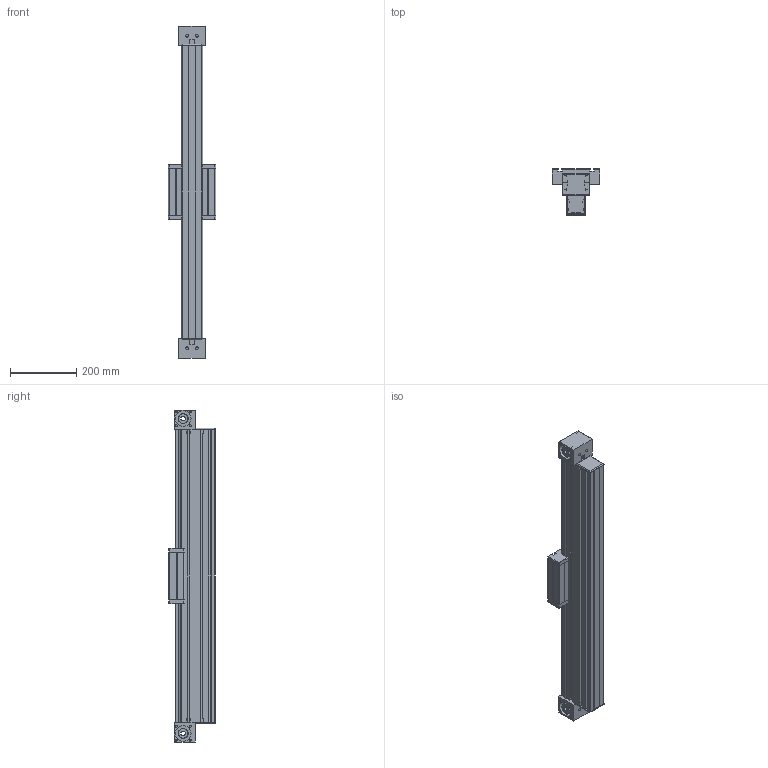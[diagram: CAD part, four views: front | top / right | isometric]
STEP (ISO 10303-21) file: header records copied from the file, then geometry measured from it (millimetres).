
FILE_DESCRIPTION (( 'STEP AP214' ), '1' );
FILE_NAME ('MLZ60 W.STEP', '2021-09-29T12:11:48', ( '' ), ( '' ), 'SwSTEP 2.0', 'SolidWorks 2020', '' );
FILE_SCHEMA (( 'AUTOMOTIVE_DESIGN' ));
Length unit declared in the file: millimetre
Products named in the file (5): timing belt reverse unit^MLZ60 W_coupling claw pos.2; MLZ60 W; carriage^MLZ60 W_carriage 0; profile^MLZ60 W_2x guide rods; timing belt reverse unit^MLZ60 W_coupling claw pos.1
Assembly tree (4 placements, depth 2):
  MLZ60 W
    profile^MLZ60 W_2x guide rods
    carriage^MLZ60 W_carriage 0
    timing belt reverse unit^MLZ60 W_coupling claw pos.1
    timing belt reverse unit^MLZ60 W_coupling claw pos.2
Bounding box: 144 x 139 x 1000 mm (x, y, z)
Volume: 7079833.4 mm3; surface area: 884858.7 mm2
Topology: 12 solids, 12 shells, 431 faces, 1112 edges, 732 vertices
Faces by surface type: plane 263, cylinder 156, torus 8, cone 4
Entity records: 13642 total; most frequent: CARTESIAN_POINT 2306, DIRECTION 2300, ORIENTED_EDGE 2224, EDGE_CURVE 1112, VECTOR 784, LINE 784, AXIS2_PLACEMENT_3D 758, VERTEX_POINT 732
